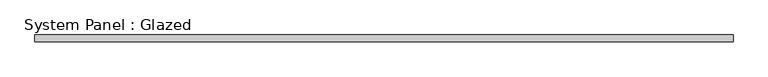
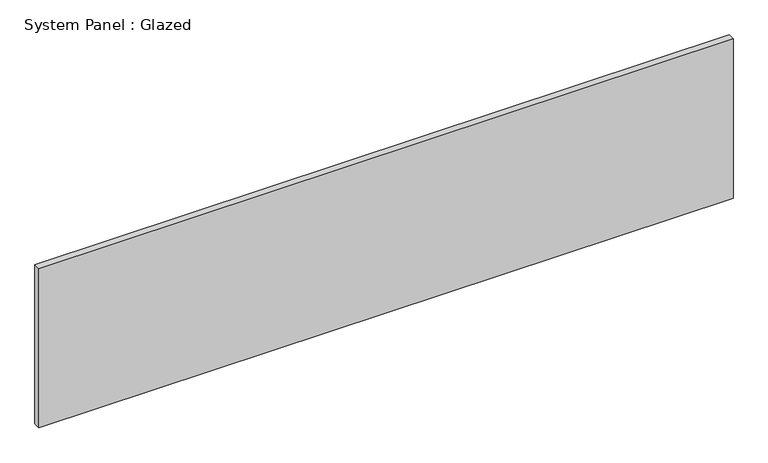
"""IFC4 building model written with IfcOpenShell, lengths in millimetres: plate geometry, System Panel : Glazed."""

from ifc_helpers import new_model, si_unit, origin, origin_with_axes, place, context, project, spatial, polyline, outline, extrude, source, transform, mapped, element, save


def system_panel_glazed_6b022301(model_context):
    return source(origin(), model_context, "Body", "SweptSolid", [
        extrude(outline(polyline([(1237.5, 24.5), (-1237.5, 24.5), (-1237.5, 49.5), (1237.5, 49.5), (1237.5, 24.5)])), origin_with_axes(), (0.0, 0.0, 1.0), 600.0),
    ])


if __name__ == "__main__":
    model = new_model("IFC4")
    model_context = context("Model", 3, world=origin())
    ifc_project = project(units=[si_unit("LENGTHUNIT", "METRE", prefix="MILLI")], contexts=[model_context])
    site = spatial("IfcSite", under=ifc_project)
    building = spatial("IfcBuilding", under=site)
    placement = place(None, origin())
    system_panel_glazed_shape = system_panel_glazed_6b022301(model_context)
    element("IfcPlate", 1, ObjectType="System Panel : Glazed", at=placement, inside=building, context=model_context, shape_type="MappedRepresentation", body=[
        mapped(system_panel_glazed_shape, transform((0.0, 0.0, 0.0), x_axis=(1.0, 0.0, 0.0), y_axis=(0.0, 1.0, 0.0), z_axis=(0.0, 0.0, 1.0))),
    ])
    save(model, "model.ifc")
